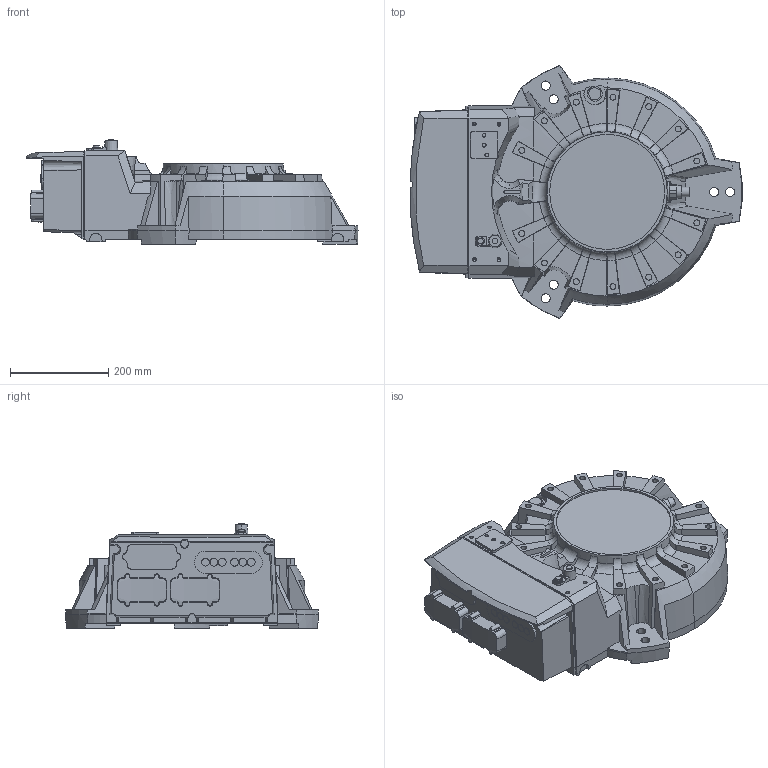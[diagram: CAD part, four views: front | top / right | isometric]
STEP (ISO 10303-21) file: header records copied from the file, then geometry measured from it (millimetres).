
FILE_DESCRIPTION (( 'STEP AP214' ), '1' );
FILE_NAME ('IRB4600_20kg-250_BASE_CAD_rev05.STEP', '2024-05-14T13:30:51', ( '' ), ( '' ), 'SwSTEP 2.0', 'SolidWorks 2022', '' );
FILE_SCHEMA (( 'AUTOMOTIVE_DESIGN' ));
Length unit declared in the file: millimetre
Products named in the file (1): IRB4600_20kg-250_BASE_CAD_rev05
Bounding box: 675.23 x 514.54 x 213 mm (x, y, z)
Volume: 30279256 mm3; surface area: 904240.9 mm2
Topology: 1 solids, 2 shells, 665 faces, 1798 edges, 1173 vertices
Faces by surface type: plane 272, cone 195, cylinder 120, torus 53, bspline 25
Entity records: 28508 total; most frequent: CARTESIAN_POINT 12471, ORIENTED_EDGE 3580, DIRECTION 3014, EDGE_CURVE 1790, AXIS2_PLACEMENT_3D 1174, VERTEX_POINT 1173, EDGE_LOOP 721, VECTOR 666
